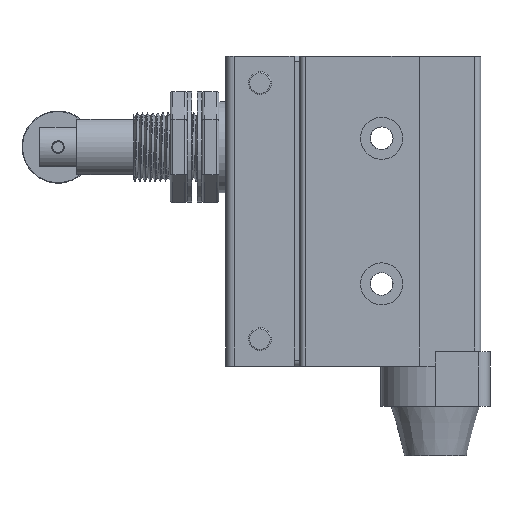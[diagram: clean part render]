
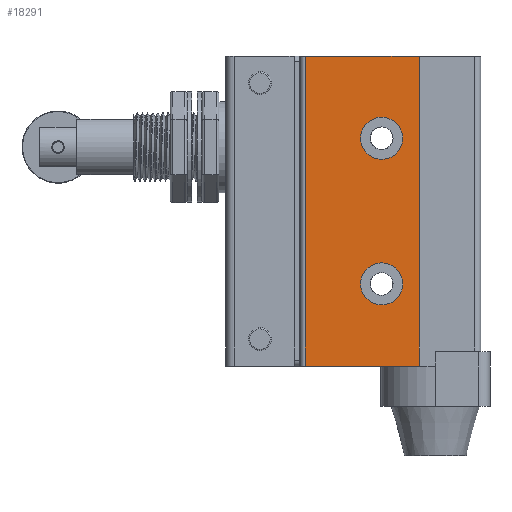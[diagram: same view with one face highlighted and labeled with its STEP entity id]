
A CAD part, left-side view. The second image highlights one B-rep face of the part: STEP entity #18291.
In plain terms, the highlighted planar face has unit normal (-1, 0, 0).
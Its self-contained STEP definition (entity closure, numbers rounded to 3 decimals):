
#1136 = LINE ( 'NONE', #20436, #23671 ) ;
#1547 = VERTEX_POINT ( 'NONE', #18702 ) ;
#2046 = FACE_BOUND ( 'NONE', #8436, .T. ) ;
#2231 = CARTESIAN_POINT ( 'NONE',  ( -2.9, 30.8, -54.5 ) ) ;
#2438 = CARTESIAN_POINT ( 'NONE',  ( -2.9, 17.4, -36.35 ) ) ;
#3262 = DIRECTION ( 'NONE',  ( -1., 0., 0. ) ) ;
#3306 = VERTEX_POINT ( 'NONE', #16713 ) ;
#3436 = DIRECTION ( 'NONE',  ( 0., 0., 1. ) ) ;
#4504 = EDGE_CURVE ( 'NONE', #3306, #21888, #1136, .T. ) ;
#5189 = AXIS2_PLACEMENT_3D ( 'NONE', #13757, #3262, #3436 ) ;
#5570 = CARTESIAN_POINT ( 'NONE',  ( -2.9, 10.8, -54.5 ) ) ;
#5708 = DIRECTION ( 'NONE',  ( 0., -1., 0. ) ) ;
#5888 = EDGE_CURVE ( 'NONE', #23308, #17935, #25145, .T. ) ;
#7047 = DIRECTION ( 'NONE',  ( -1., 0., 0. ) ) ;
#7519 = CARTESIAN_POINT ( 'NONE',  ( -2.9, 10.8, -54.5 ) ) ;
#8243 = CARTESIAN_POINT ( 'NONE',  ( -2.9, 10.8, 0. ) ) ;
#8395 = EDGE_CURVE ( 'NONE', #22138, #22138, #13305, .T. ) ;
#8436 = EDGE_LOOP ( 'NONE', ( #10033 ) ) ;
#8442 = EDGE_LOOP ( 'NONE', ( #12215 ) ) ;
#8500 = CARTESIAN_POINT ( 'NONE',  ( -2.9, 10.8, -54.5 ) ) ;
#9776 = CIRCLE ( 'NONE', #5189, 3.7 ) ;
#10033 = ORIENTED_EDGE ( 'NONE', *, *, #18454, .F. ) ;
#11011 = DIRECTION ( 'NONE',  ( 0., 0., 1. ) ) ;
#11290 = DIRECTION ( 'NONE',  ( 0., 0., 1. ) ) ;
#11771 = DIRECTION ( 'NONE',  ( 0., 0., 1. ) ) ;
#11987 = VECTOR ( 'NONE', #11771, 1000. ) ;
#12215 = ORIENTED_EDGE ( 'NONE', *, *, #8395, .F. ) ;
#12462 = DIRECTION ( 'NONE',  ( 0., -1., 0. ) ) ;
#13305 = CIRCLE ( 'NONE', #14848, 3.7 ) ;
#13410 = DIRECTION ( 'NONE',  ( -1., 0., 0. ) ) ;
#13757 = CARTESIAN_POINT ( 'NONE',  ( -2.9, 17.4, -14.45 ) ) ;
#14848 = AXIS2_PLACEMENT_3D ( 'NONE', #19332, #7047, #15215 ) ;
#15215 = DIRECTION ( 'NONE',  ( 0., 0., 1. ) ) ;
#15657 = EDGE_CURVE ( 'NONE', #23308, #3306, #18075, .T. ) ;
#16109 = ORIENTED_EDGE ( 'NONE', *, *, #24507, .T. ) ;
#16187 = FACE_OUTER_BOUND ( 'NONE', #24392, .T. ) ;
#16713 = CARTESIAN_POINT ( 'NONE',  ( -2.9, 30.8, 0. ) ) ;
#17935 = VERTEX_POINT ( 'NONE', #8500 ) ;
#18075 = LINE ( 'NONE', #23616, #26454 ) ;
#18092 = ORIENTED_EDGE ( 'NONE', *, *, #15657, .F. ) ;
#18291 = ADVANCED_FACE ( 'NONE', ( #19710, #2046, #16187 ), #25210, .T. ) ;
#18454 = EDGE_CURVE ( 'NONE', #1547, #1547, #9776, .T. ) ;
#18702 = CARTESIAN_POINT ( 'NONE',  ( -2.9, 17.4, -10.75 ) ) ;
#18951 = AXIS2_PLACEMENT_3D ( 'NONE', #23417, #13410, #11011 ) ;
#19332 = CARTESIAN_POINT ( 'NONE',  ( -2.9, 17.4, -40.05 ) ) ;
#19710 = FACE_BOUND ( 'NONE', #8442, .T. ) ;
#20279 = VECTOR ( 'NONE', #5708, 1000. ) ;
#20436 = CARTESIAN_POINT ( 'NONE',  ( -2.9, 10.8, 0. ) ) ;
#20454 = ORIENTED_EDGE ( 'NONE', *, *, #4504, .F. ) ;
#21888 = VERTEX_POINT ( 'NONE', #8243 ) ;
#22138 = VERTEX_POINT ( 'NONE', #2438 ) ;
#22898 = ORIENTED_EDGE ( 'NONE', *, *, #5888, .T. ) ;
#23308 = VERTEX_POINT ( 'NONE', #2231 ) ;
#23417 = CARTESIAN_POINT ( 'NONE',  ( -2.9, 10.8, -54.5 ) ) ;
#23616 = CARTESIAN_POINT ( 'NONE',  ( -2.9, 30.8, -54.5 ) ) ;
#23671 = VECTOR ( 'NONE', #12462, 1000. ) ;
#24392 = EDGE_LOOP ( 'NONE', ( #20454, #18092, #22898, #16109 ) ) ;
#24507 = EDGE_CURVE ( 'NONE', #17935, #21888, #26160, .T. ) ;
#25145 = LINE ( 'NONE', #7519, #20279 ) ;
#25210 = PLANE ( 'NONE',  #18951 ) ;
#26160 = LINE ( 'NONE', #5570, #11987 ) ;
#26454 = VECTOR ( 'NONE', #11290, 1000. ) ;
